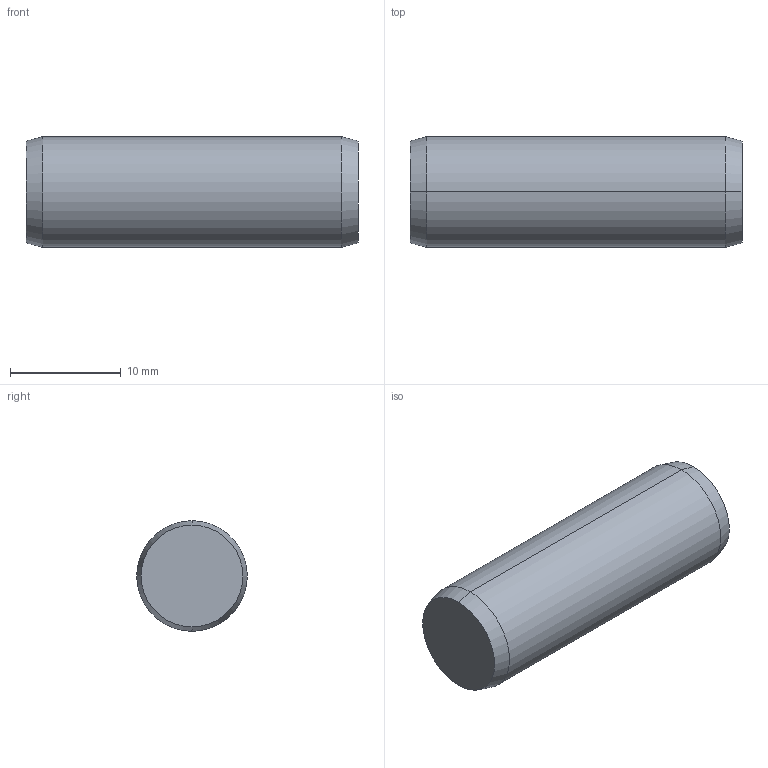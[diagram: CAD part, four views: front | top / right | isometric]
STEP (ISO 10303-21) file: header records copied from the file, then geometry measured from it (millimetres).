
FILE_DESCRIPTION (( 'STEP AP203' ), '1' );
FILE_NAME ('P1206.100-030.step', '2017-06-14T08:31:52', ( 'User' ), ( '' ), 'SwSTEP 2.0', 'SolidWorks 2009', '' );
FILE_SCHEMA (( 'CONFIG_CONTROL_DESIGN' ));
Length unit declared in the file: millimetre
Products named in the file (1): P1206.100-030
Bounding box: 30 x 10 x 10 mm (x, y, z)
Volume: 2337.8 mm3; surface area: 1074.7 mm2
Topology: 1 solids, 1 shells, 8 faces, 14 edges, 8 vertices
Faces by surface type: cone 4, cylinder 2, plane 2
Entity records: 271 total; most frequent: DIRECTION 40, CARTESIAN_POINT 31, ORIENTED_EDGE 28, AXIS2_PLACEMENT_3D 17, EDGE_CURVE 14, PERSON_AND_ORGANIZATION 8, EDGE_LOOP 8, VERTEX_POINT 8
